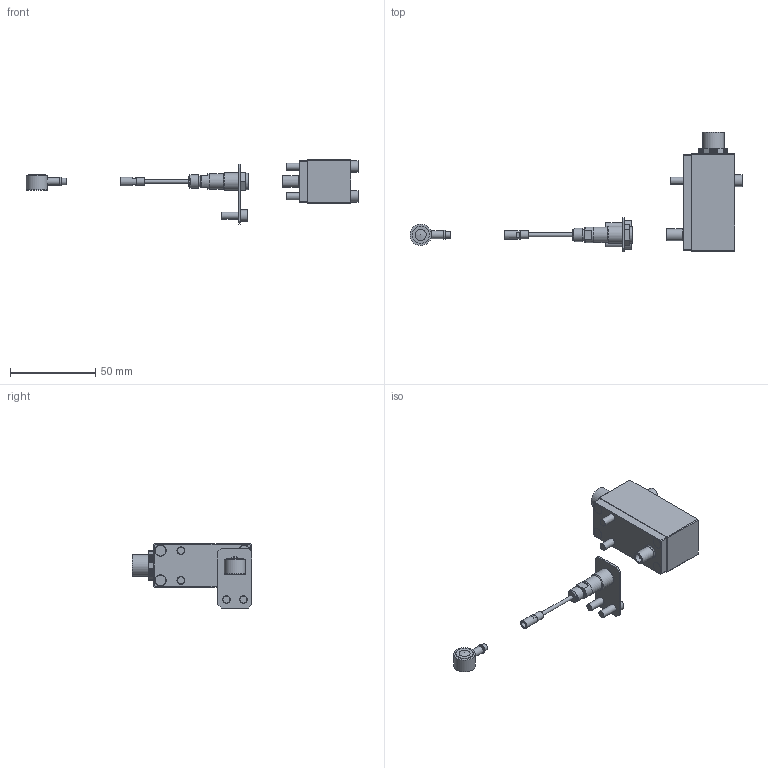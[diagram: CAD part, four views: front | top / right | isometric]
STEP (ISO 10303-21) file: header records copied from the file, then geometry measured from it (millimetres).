
FILE_DESCRIPTION( ( 'STEP AP214' ), '1' );
FILE_NAME( 'C:/Documents and Settings/andrew/Desktop/LP-B-127-2000.stp', '2010-08-23T19:40:08', ( ' ' ), ( ' ' ), 'XStep 1.0', 'VISI-Series', ' ' );
FILE_SCHEMA( ( 'automotive_design' ) );
Length unit declared in the file: inch
Products named in the file (14): 1; 2; 3; 4; 5; 6; 7; 8; 9; 10; 11; 12; 13; 14
Bounding box: 194.98 x 70.34 x 37.7 mm (x, y, z)
Volume: 6501.8 mm3; surface area: 16751.8 mm2
Topology: 13 solids, 14 shells, 1750 faces, 4890 edges, 3269 vertices
Faces by surface type: cylinder 936, plane 710, extrusion 86, cone 15, revolution 1, sphere 1, torus 1
Full cylindrical faces by diameter (mm): 1.207 x4, 1.449 x4, 2.2 x1, 2.381 x1, 2.731 x4, 3.556 x1, 3.9 x1, 4.166 x4, 4.496 x2, 4.5 x2, 4.501 x1, 4.623 x1, 4.978 x1, 5.08 x1, 5.251 x1, 6.096 x1, 6.858 x4, 6.96 x1, 6.985 x1, 7.95 x1, 8.89 x1, 9.017 x1, 9.144 x1, 9.2 x1, 9.625 x1, 10.12 x1, 10.2 x1, 12.6 x1, 12.636 x1
Entity records: 71178 total; most frequent: CARTESIAN_POINT 10773, DIRECTION 9939, ORIENTED_EDGE 9570, EDGE_CURVE 4785, AXIS2_PLACEMENT_3D 3575, VERTEX_POINT 3227, VECTOR 2788, LINE 2696
